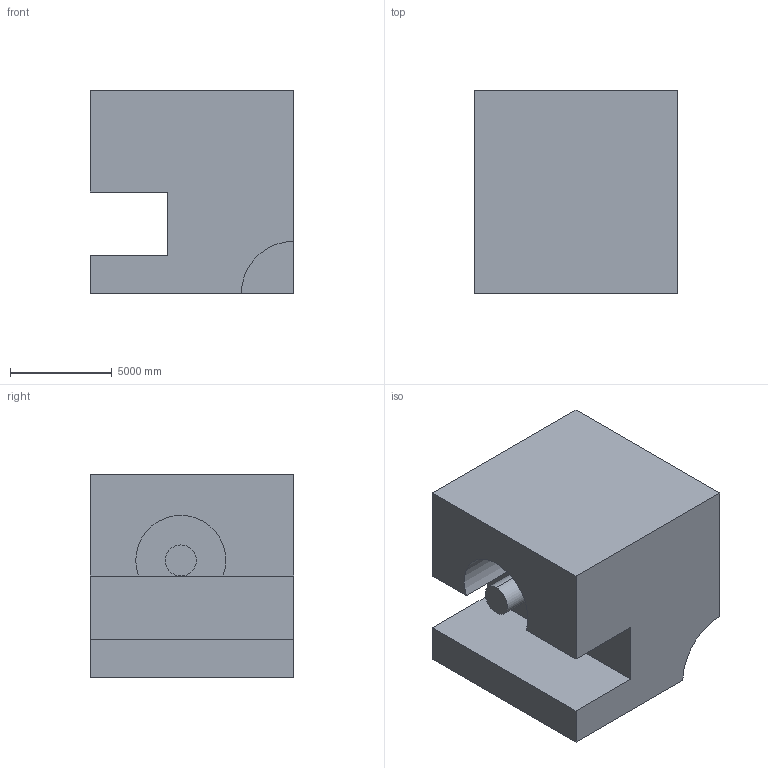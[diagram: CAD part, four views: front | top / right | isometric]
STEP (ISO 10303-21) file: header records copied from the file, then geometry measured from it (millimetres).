
FILE_DESCRIPTION (( 'STEP AP203' ), '1' );
FILE_NAME ('287.STEP', '2022-07-28T14:12:59', ( 'user' ), ( '' ), 'SwSTEP 2.0', 'SolidWorks 2021', '' );
FILE_SCHEMA (( 'CONFIG_CONTROL_DESIGN' ));
Length unit declared in the file: centimetre
Products named in the file (1): 287
Bounding box: 10000 x 10000 x 10000 mm (x, y, z)
Volume: 816987334933.1 mm3; surface area: 676610049.8 mm2
Topology: 1 solids, 1 shells, 18 faces, 45 edges, 30 vertices
Faces by surface type: plane 13, cylinder 5
Entity records: 616 total; most frequent: CARTESIAN_POINT 94, DIRECTION 93, ORIENTED_EDGE 90, EDGE_CURVE 45, VECTOR 35, LINE 35, VERTEX_POINT 30, AXIS2_PLACEMENT_3D 29
